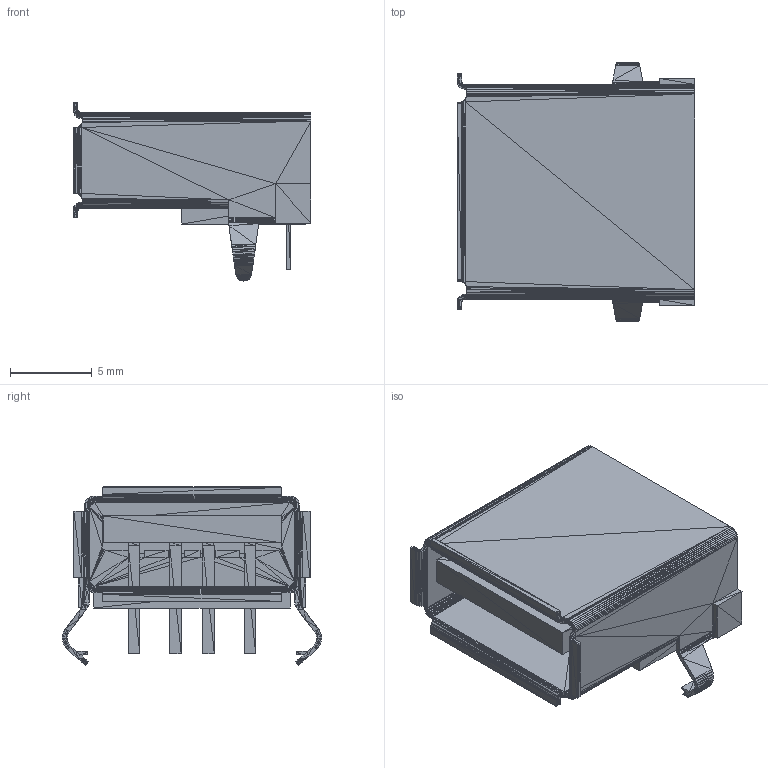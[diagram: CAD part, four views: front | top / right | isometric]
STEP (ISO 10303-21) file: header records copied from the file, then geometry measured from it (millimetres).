
FILE_DESCRIPTION(('HOOPS Exchange Step'),'2;1');
FILE_NAME('***.stp');
FILE_SCHEMA( ('AP242_MANAGED_MODEL_BASED_3D_ENGINEERING_MIM_LF {1 0 10303 442 1 1 4 }') );
Length unit declared in the file: inch
Products named in the file (12): USBA_F_2; USBA_F_3; USBA_F_4; USBA_F_5; USBA_F_6; USBA_F_7; USBA_F_8; USBA_F_9; USBA_F_10; USBA_F_11; USBA_F_12; USBA_F
Assembly tree (11 placements, depth 2):
  USBA_F
    USBA_F_2
    USBA_F_3
    USBA_F_4
    USBA_F_5
    USBA_F_6
    USBA_F_7
    USBA_F_8
    USBA_F_9
    USBA_F_10
    USBA_F_11
    USBA_F_12
Bounding box: 14.6 x 15.9 x 10.93 mm (x, y, z)
Volume: 324.4 mm3; surface area: 1850.6 mm2
Topology: 10 solids, 11 shells, 1774 faces, 2786 edges, 1010 vertices
Faces by surface type: plane 1774
Entity records: 35975 total; most frequent: DIRECTION 6382, CARTESIAN_POINT 5594, ORIENTED_EDGE 5322, VECTOR 2786, LINE 2786, EDGE_CURVE 2786, AXIS2_PLACEMENT_3D 1798, PLANE 1774
